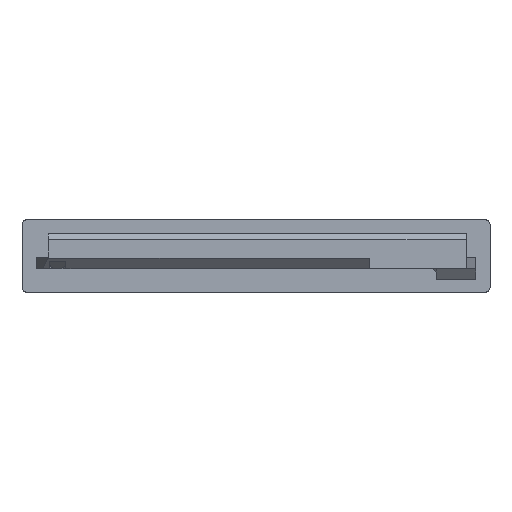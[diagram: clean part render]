
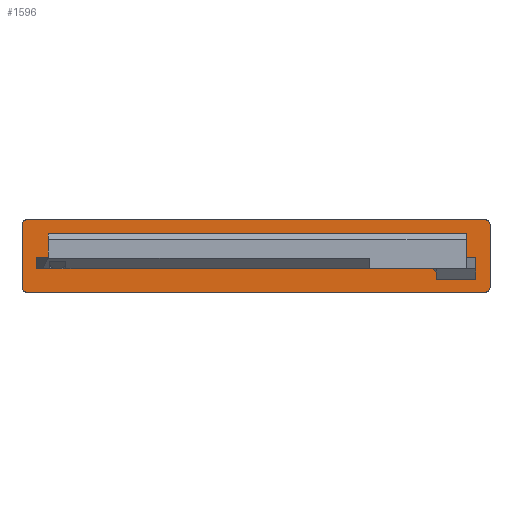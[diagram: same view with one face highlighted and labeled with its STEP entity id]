
A CAD part, left-side view. The second image highlights one B-rep face of the part: STEP entity #1596.
In plain terms, the highlighted planar face has unit normal (-1, 0, 0).
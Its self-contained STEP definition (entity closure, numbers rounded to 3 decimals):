
#127 = VERTEX_POINT ( 'NONE', #11159 ) ;
#140 = DIRECTION ( 'NONE',  ( 0., 1., 0. ) ) ;
#242 = VECTOR ( 'NONE', #8464, 1000. ) ;
#321 = DIRECTION ( 'NONE',  ( 0., 0., -1. ) ) ;
#557 = VERTEX_POINT ( 'NONE', #10262 ) ;
#592 = DIRECTION ( 'NONE',  ( 0., 0., 1. ) ) ;
#689 = DIRECTION ( 'NONE',  ( 0., 0., -1. ) ) ;
#755 = DIRECTION ( 'NONE',  ( 1., 0., 0. ) ) ;
#922 = CARTESIAN_POINT ( 'NONE',  ( 13.75, -9.4, -0.5 ) ) ;
#950 = VERTEX_POINT ( 'NONE', #6480 ) ;
#1041 = EDGE_CURVE ( 'NONE', #7767, #557, #2411, .T. ) ;
#1089 = CARTESIAN_POINT ( 'NONE',  ( 13.75, -9.8, 1.4 ) ) ;
#1297 = FACE_OUTER_BOUND ( 'NONE', #6369, .T. ) ;
#1431 = VECTOR ( 'NONE', #8621, 1000. ) ;
#1481 = EDGE_CURVE ( 'NONE', #7742, #9934, #2875, .T. ) ;
#1540 = EDGE_CURVE ( 'NONE', #6249, #1566, #7480, .T. ) ;
#1566 = VERTEX_POINT ( 'NONE', #7367 ) ;
#1596 = ADVANCED_FACE ( 'NONE', ( #1297, #10270 ), #4904, .F. ) ;
#1657 = EDGE_CURVE ( 'NONE', #11470, #3352, #4696, .T. ) ;
#1690 = VERTEX_POINT ( 'NONE', #5072 ) ;
#1724 = DIRECTION ( 'NONE',  ( 0., 0., 1. ) ) ;
#1779 = AXIS2_PLACEMENT_3D ( 'NONE', #1907, #7323, #10759 ) ;
#1832 = CARTESIAN_POINT ( 'NONE',  ( 13.75, 0., 0. ) ) ;
#1907 = CARTESIAN_POINT ( 'NONE',  ( 13.75, 9.8, -1.3 ) ) ;
#1925 = VECTOR ( 'NONE', #3605, 1000. ) ;
#1948 = VECTOR ( 'NONE', #689, 1000. ) ;
#2149 = EDGE_CURVE ( 'NONE', #6189, #7767, #8834, .T. ) ;
#2156 = VERTEX_POINT ( 'NONE', #7164 ) ;
#2224 = ORIENTED_EDGE ( 'NONE', *, *, #1041, .F. ) ;
#2299 = AXIS2_PLACEMENT_3D ( 'NONE', #4259, #755, #592 ) ;
#2411 = LINE ( 'NONE', #6880, #9891 ) ;
#2502 = LINE ( 'NONE', #3426, #3105 ) ;
#2533 = CARTESIAN_POINT ( 'NONE',  ( 13.75, -9.8, -1.3 ) ) ;
#2605 = CARTESIAN_POINT ( 'NONE',  ( 13.75, 10., -0.5 ) ) ;
#2635 = CARTESIAN_POINT ( 'NONE',  ( 13.75, -9.8, 1.6 ) ) ;
#2748 = ORIENTED_EDGE ( 'NONE', *, *, #7779, .F. ) ;
#2813 = CARTESIAN_POINT ( 'NONE',  ( 13.75, 10., 1.4 ) ) ;
#2875 = LINE ( 'NONE', #1832, #4882 ) ;
#3105 = VECTOR ( 'NONE', #5273, 1000. ) ;
#3352 = VERTEX_POINT ( 'NONE', #5105 ) ;
#3426 = CARTESIAN_POINT ( 'NONE',  ( 13.75, 0., -0.5 ) ) ;
#3516 = DIRECTION ( 'NONE',  ( 1., 0., 0. ) ) ;
#3525 = CARTESIAN_POINT ( 'NONE',  ( 13.75, 0., 1.6 ) ) ;
#3605 = DIRECTION ( 'NONE',  ( 0., 0., 1. ) ) ;
#3639 = CARTESIAN_POINT ( 'NONE',  ( 13.75, -9.4, -0.5 ) ) ;
#3790 = VERTEX_POINT ( 'NONE', #9249 ) ;
#3911 = EDGE_CURVE ( 'NONE', #3790, #2156, #7637, .T. ) ;
#4056 = CARTESIAN_POINT ( 'NONE',  ( 13.75, 9.4, -0.5 ) ) ;
#4057 = ORIENTED_EDGE ( 'NONE', *, *, #3911, .F. ) ;
#4201 = CIRCLE ( 'NONE', #1779, 0.2 ) ;
#4259 = CARTESIAN_POINT ( 'NONE',  ( 13.75, 9.8, 1.4 ) ) ;
#4296 = CARTESIAN_POINT ( 'NONE',  ( 13.75, 9.4, -0.5 ) ) ;
#4316 = AXIS2_PLACEMENT_3D ( 'NONE', #8297, #4843, #321 ) ;
#4498 = DIRECTION ( 'NONE',  ( 0., -1., 0. ) ) ;
#4615 = VECTOR ( 'NONE', #7864, 1000. ) ;
#4645 = ORIENTED_EDGE ( 'NONE', *, *, #9004, .F. ) ;
#4696 = CIRCLE ( 'NONE', #2299, 0.2 ) ;
#4843 = DIRECTION ( 'NONE',  ( 1., 0., 0. ) ) ;
#4882 = VECTOR ( 'NONE', #140, 1000. ) ;
#4904 = PLANE ( 'NONE',  #4316 ) ;
#4945 = CARTESIAN_POINT ( 'NONE',  ( 13.75, 8.88, -0.5 ) ) ;
#5010 = LINE ( 'NONE', #5897, #1431 ) ;
#5072 = CARTESIAN_POINT ( 'NONE',  ( 13.75, -8.98, 1. ) ) ;
#5101 = VERTEX_POINT ( 'NONE', #2635 ) ;
#5105 = CARTESIAN_POINT ( 'NONE',  ( 13.75, 9.8, 1.6 ) ) ;
#5123 = AXIS2_PLACEMENT_3D ( 'NONE', #2533, #3516, #10617 ) ;
#5152 = ORIENTED_EDGE ( 'NONE', *, *, #9569, .F. ) ;
#5273 = DIRECTION ( 'NONE',  ( 0., -1., 0. ) ) ;
#5443 = EDGE_CURVE ( 'NONE', #1566, #950, #4201, .T. ) ;
#5791 = ORIENTED_EDGE ( 'NONE', *, *, #6727, .F. ) ;
#5849 = CARTESIAN_POINT ( 'NONE',  ( 13.75, 0., -1.5 ) ) ;
#5897 = CARTESIAN_POINT ( 'NONE',  ( 13.75, -8.98, -0.5 ) ) ;
#5950 = DIRECTION ( 'NONE',  ( 0., 1., 0. ) ) ;
#6039 = ORIENTED_EDGE ( 'NONE', *, *, #10691, .F. ) ;
#6059 = LINE ( 'NONE', #4296, #4615 ) ;
#6117 = EDGE_CURVE ( 'NONE', #3352, #5101, #7960, .T. ) ;
#6189 = VERTEX_POINT ( 'NONE', #3639 ) ;
#6205 = ORIENTED_EDGE ( 'NONE', *, *, #10975, .F. ) ;
#6209 = DIRECTION ( 'NONE',  ( 0., 1., 0. ) ) ;
#6249 = VERTEX_POINT ( 'NONE', #9924 ) ;
#6261 = CIRCLE ( 'NONE', #5123, 0.2 ) ;
#6369 = EDGE_LOOP ( 'NONE', ( #6205, #8344, #8385, #2748, #4057, #5152, #10570, #6549 ) ) ;
#6433 = EDGE_LOOP ( 'NONE', ( #5791, #10796, #4645, #2224, #7839, #9646, #6039, #11396 ) ) ;
#6480 = CARTESIAN_POINT ( 'NONE',  ( 13.75, 10., -1.3 ) ) ;
#6549 = ORIENTED_EDGE ( 'NONE', *, *, #1657, .F. ) ;
#6632 = CARTESIAN_POINT ( 'NONE',  ( 13.75, 9.4, 0. ) ) ;
#6659 = AXIS2_PLACEMENT_3D ( 'NONE', #1089, #7450, #9234 ) ;
#6727 = EDGE_CURVE ( 'NONE', #127, #7742, #9428, .T. ) ;
#6880 = CARTESIAN_POINT ( 'NONE',  ( 13.75, 0., 0. ) ) ;
#7164 = CARTESIAN_POINT ( 'NONE',  ( 13.75, -10., -1.3 ) ) ;
#7217 = EDGE_CURVE ( 'NONE', #1690, #127, #9811, .T. ) ;
#7323 = DIRECTION ( 'NONE',  ( 1., 0., 0. ) ) ;
#7367 = CARTESIAN_POINT ( 'NONE',  ( 13.75, 9.8, -1.5 ) ) ;
#7450 = DIRECTION ( 'NONE',  ( 1., 0., 0. ) ) ;
#7480 = LINE ( 'NONE', #5849, #242 ) ;
#7637 = LINE ( 'NONE', #11312, #1948 ) ;
#7742 = VERTEX_POINT ( 'NONE', #7833 ) ;
#7767 = VERTEX_POINT ( 'NONE', #11506 ) ;
#7779 = EDGE_CURVE ( 'NONE', #2156, #6249, #6261, .T. ) ;
#7833 = CARTESIAN_POINT ( 'NONE',  ( 13.75, 8.88, 0. ) ) ;
#7839 = ORIENTED_EDGE ( 'NONE', *, *, #2149, .F. ) ;
#7864 = DIRECTION ( 'NONE',  ( 0., 0., -1. ) ) ;
#7903 = LINE ( 'NONE', #2605, #11518 ) ;
#7942 = VECTOR ( 'NONE', #9487, 1000. ) ;
#7960 = LINE ( 'NONE', #3525, #10529 ) ;
#8297 = CARTESIAN_POINT ( 'NONE',  ( 13.75, 0., -0.5 ) ) ;
#8344 = ORIENTED_EDGE ( 'NONE', *, *, #5443, .F. ) ;
#8350 = EDGE_CURVE ( 'NONE', #8660, #6189, #2502, .T. ) ;
#8385 = ORIENTED_EDGE ( 'NONE', *, *, #1540, .F. ) ;
#8464 = DIRECTION ( 'NONE',  ( 0., 1., 0. ) ) ;
#8621 = DIRECTION ( 'NONE',  ( 0., 0., 1. ) ) ;
#8660 = VERTEX_POINT ( 'NONE', #4056 ) ;
#8834 = LINE ( 'NONE', #922, #1925 ) ;
#9004 = EDGE_CURVE ( 'NONE', #557, #1690, #5010, .T. ) ;
#9234 = DIRECTION ( 'NONE',  ( 0., 0., 1. ) ) ;
#9249 = CARTESIAN_POINT ( 'NONE',  ( 13.75, -10., 1.4 ) ) ;
#9428 = LINE ( 'NONE', #4945, #7942 ) ;
#9487 = DIRECTION ( 'NONE',  ( 0., 0., -1. ) ) ;
#9569 = EDGE_CURVE ( 'NONE', #5101, #3790, #11496, .T. ) ;
#9646 = ORIENTED_EDGE ( 'NONE', *, *, #8350, .F. ) ;
#9811 = LINE ( 'NONE', #10628, #11458 ) ;
#9891 = VECTOR ( 'NONE', #5950, 1000. ) ;
#9924 = CARTESIAN_POINT ( 'NONE',  ( 13.75, -9.8, -1.5 ) ) ;
#9934 = VERTEX_POINT ( 'NONE', #6632 ) ;
#10262 = CARTESIAN_POINT ( 'NONE',  ( 13.75, -8.98, 0. ) ) ;
#10270 = FACE_BOUND ( 'NONE', #6433, .T. ) ;
#10529 = VECTOR ( 'NONE', #4498, 1000. ) ;
#10570 = ORIENTED_EDGE ( 'NONE', *, *, #6117, .F. ) ;
#10617 = DIRECTION ( 'NONE',  ( 0., 0., 1. ) ) ;
#10628 = CARTESIAN_POINT ( 'NONE',  ( 13.75, 0., 1. ) ) ;
#10691 = EDGE_CURVE ( 'NONE', #9934, #8660, #6059, .T. ) ;
#10759 = DIRECTION ( 'NONE',  ( 0., 0., 1. ) ) ;
#10796 = ORIENTED_EDGE ( 'NONE', *, *, #7217, .F. ) ;
#10975 = EDGE_CURVE ( 'NONE', #950, #11470, #7903, .T. ) ;
#11159 = CARTESIAN_POINT ( 'NONE',  ( 13.75, 8.88, 1. ) ) ;
#11312 = CARTESIAN_POINT ( 'NONE',  ( 13.75, -10., -0.5 ) ) ;
#11396 = ORIENTED_EDGE ( 'NONE', *, *, #1481, .F. ) ;
#11458 = VECTOR ( 'NONE', #6209, 1000. ) ;
#11470 = VERTEX_POINT ( 'NONE', #2813 ) ;
#11496 = CIRCLE ( 'NONE', #6659, 0.2 ) ;
#11506 = CARTESIAN_POINT ( 'NONE',  ( 13.75, -9.4, 0. ) ) ;
#11518 = VECTOR ( 'NONE', #1724, 1000. ) ;
